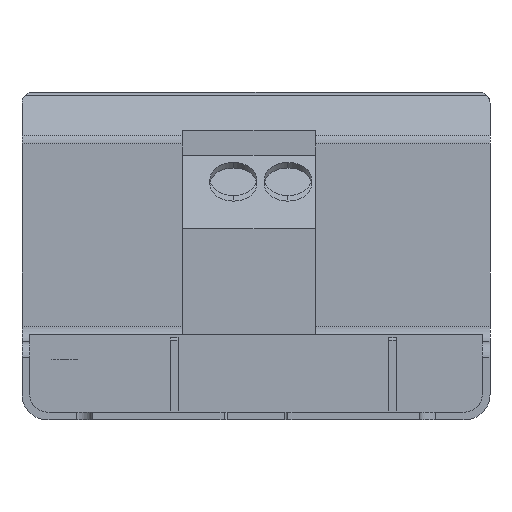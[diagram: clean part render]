
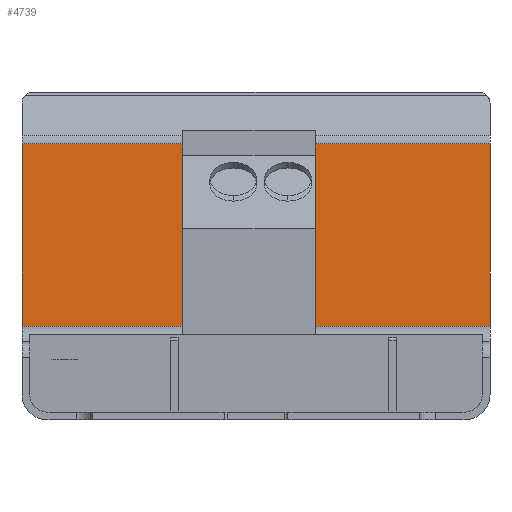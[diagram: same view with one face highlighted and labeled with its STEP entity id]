
A CAD part, front view. The second image highlights one B-rep face of the part: STEP entity #4739.
In plain terms, the highlighted planar face has unit normal (0, -1, 0).
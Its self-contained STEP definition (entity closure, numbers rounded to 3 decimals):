
#908=DIRECTION('',(1.,0.,0.));
#909=VECTOR('',#908,30.);
#910=CARTESIAN_POINT('',(-54.132,90.499,18.004));
#911=LINE('',#910,#909);
#1195=DIRECTION('',(0.,0.,1.));
#1196=VECTOR('',#1195,11.71);
#1197=CARTESIAN_POINT('',(-54.132,90.499,18.004));
#1198=LINE('',#1197,#1196);
#1202=DIRECTION('',(0.,0.,-1.));
#1203=VECTOR('',#1202,11.71);
#1204=CARTESIAN_POINT('',(-24.132,90.499,29.714));
#1205=LINE('',#1204,#1203);
#1209=DIRECTION('',(-1.,0.,0.));
#1210=VECTOR('',#1209,30.);
#1211=CARTESIAN_POINT('',(-24.132,90.499,29.714));
#1212=LINE('',#1211,#1210);
#3266=CARTESIAN_POINT('',(-54.132,90.499,18.004));
#3267=VERTEX_POINT('',#3266);
#3268=CARTESIAN_POINT('',(-24.132,90.499,18.004));
#3269=VERTEX_POINT('',#3268);
#3368=CARTESIAN_POINT('',(-54.132,90.499,29.714));
#3369=VERTEX_POINT('',#3368);
#3434=CARTESIAN_POINT('',(-24.132,90.499,29.714));
#3435=VERTEX_POINT('',#3434);
#4727=CARTESIAN_POINT('',(-54.132,90.499,17.454));
#4728=DIRECTION('',(0.,-1.,0.));
#4729=DIRECTION('',(0.,0.,1.));
#4730=AXIS2_PLACEMENT_3D('',#4727,#4728,#4729);
#4731=PLANE('',#4730);
#4732=ORIENTED_EDGE('',*,*,#4330,.F.);
#4733=ORIENTED_EDGE('',*,*,#3894,.T.);
#4735=ORIENTED_EDGE('',*,*,#4734,.F.);
#4736=ORIENTED_EDGE('',*,*,#4046,.T.);
#4737=EDGE_LOOP('',(#4732,#4733,#4735,#4736));
#4738=FACE_OUTER_BOUND('',#4737,.F.);
#3894=EDGE_CURVE('',#3267,#3369,#1198,.T.);
#4046=EDGE_CURVE('',#3435,#3269,#1205,.T.);
#4330=EDGE_CURVE('',#3267,#3269,#911,.T.);
#4734=EDGE_CURVE('',#3435,#3369,#1212,.T.);
#4739=ADVANCED_FACE('',(#4738),#4731,.T.);
